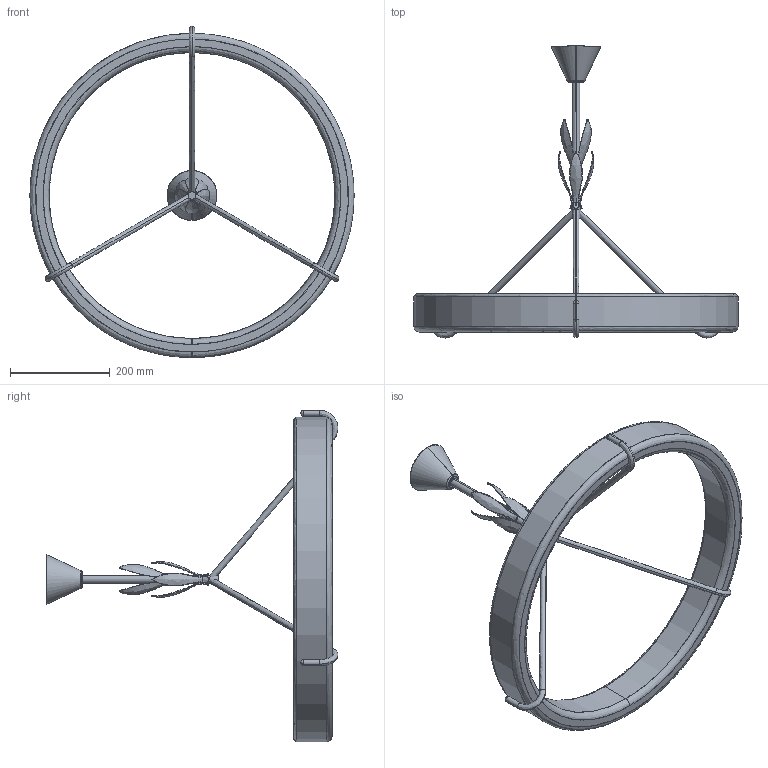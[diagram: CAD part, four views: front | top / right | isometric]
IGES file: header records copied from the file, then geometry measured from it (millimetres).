
Start section: SolidWorks IGES file using analytic representation for surfaces
Global section: file name: F:\燠隴矨\3D\10堎\10渾奻換\Alta Plaster Chandelier-D65.IGS; native system: SolidWorks 2022; preprocessor: SolidWorks 2022; author: MyPC; date: 231014.174727; units: millimetre
Bounding box: 650 x 584.73 x 664 mm (x, y, z)
Surface area: 552274.2 mm2 (no closed solid volume)
Topology: 0 solids, 0 shells, 119 faces, 3752 edges, 3752 vertices
Faces by surface type: bspline 87, revolution 32
